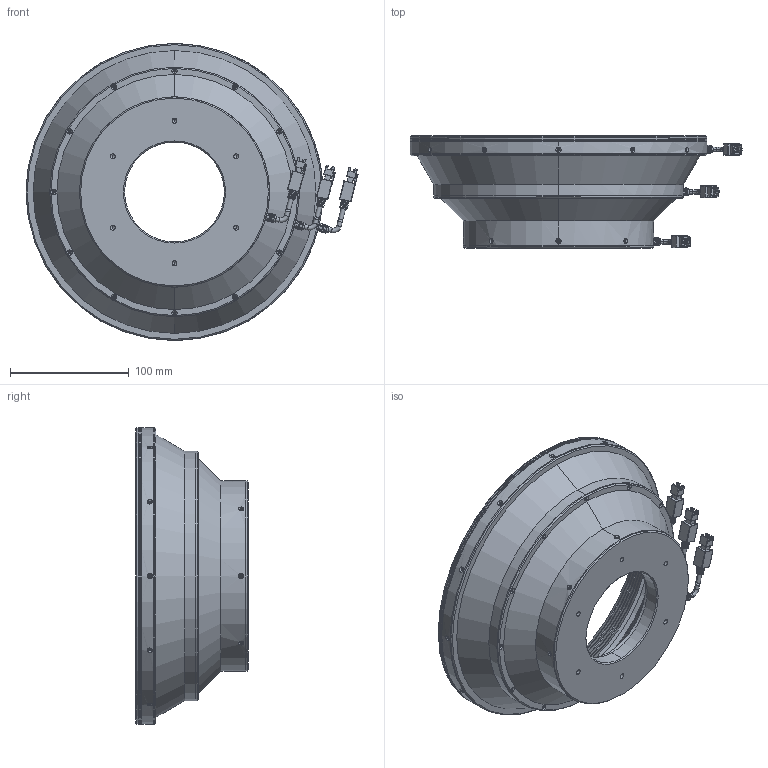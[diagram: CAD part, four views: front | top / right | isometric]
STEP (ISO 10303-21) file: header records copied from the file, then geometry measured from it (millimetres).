
FILE_DESCRIPTION (( 'STEP AP214' ), '1' );
FILE_NAME ('PPX-AOI250-Z-A1.0.STEP', '2019-07-01T11:24:44', ( '微软用户' ), ( '微软中国' ), 'SwSTEP 2.0', 'SolidWorks 2016', '' );
FILE_SCHEMA (( 'AUTOMOTIVE_DESIGN' ));
Length unit declared in the file: millimetre
Products named in the file (9): PPX-AOI250-Z-A1.0腑紩4; PPX-AOI250-Z-A1.0腑紩3; PPX-AOI250-Z-A1.0腑紩2; 两芯电源线 （母端） - 副本; PPX-AOI250-Z-A1.0Ȧ4; PPX-AOI250-Z-A1.0Ȧ3; PPX-AOI250-Z-A1.0Ȧ2; PPX-AOI250-Z-A1.0菁啣; PPX-AOI250-Z-A1.0
Assembly tree (10 placements, depth 2):
  PPX-AOI250-Z-A1.0
    PPX-AOI250-Z-A1.0菁啣
    PPX-AOI250-Z-A1.0Ȧ2
    PPX-AOI250-Z-A1.0Ȧ3
    PPX-AOI250-Z-A1.0Ȧ4
    两芯电源线 （母端） - 副本  x3
    PPX-AOI250-Z-A1.0腑紩2
    PPX-AOI250-Z-A1.0腑紩3
    PPX-AOI250-Z-A1.0腑紩4
Bounding box: 279.46 x 94.7 x 250 mm (x, y, z)
Volume: 665827.9 mm3; surface area: 453332.9 mm2
Topology: 13 solids, 13 shells, 1409 faces, 3509 edges, 2111 vertices
Faces by surface type: plane 500, cylinder 437, cone 406, torus 48, sphere 12, bspline 6
Entity records: 29046 total; most frequent: CARTESIAN_POINT 7190, DIRECTION 4510, ORIENTED_EDGE 4158, EDGE_CURVE 2079, AXIS2_PLACEMENT_3D 1721, VERTEX_POINT 1253, LINE 1068, VECTOR 1068
